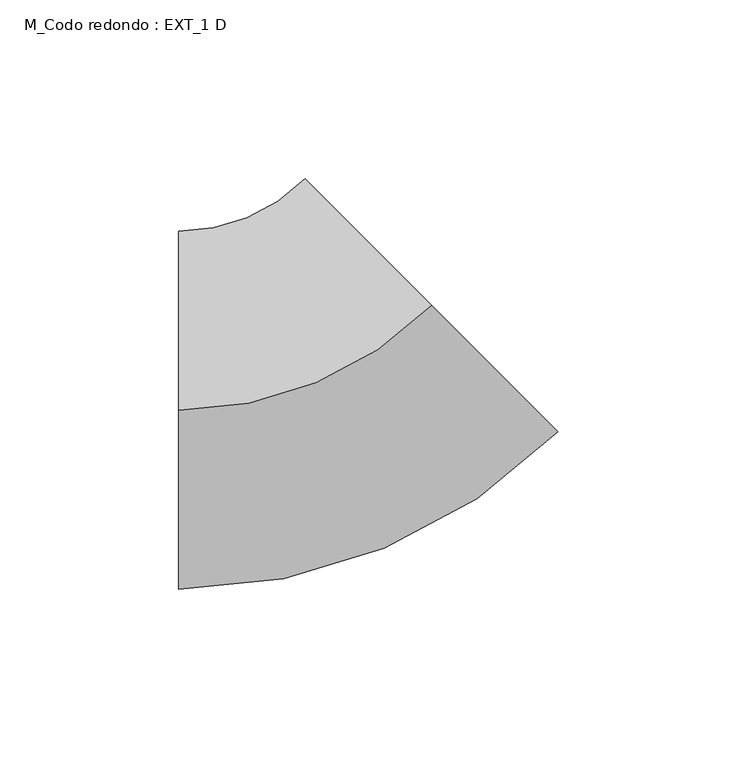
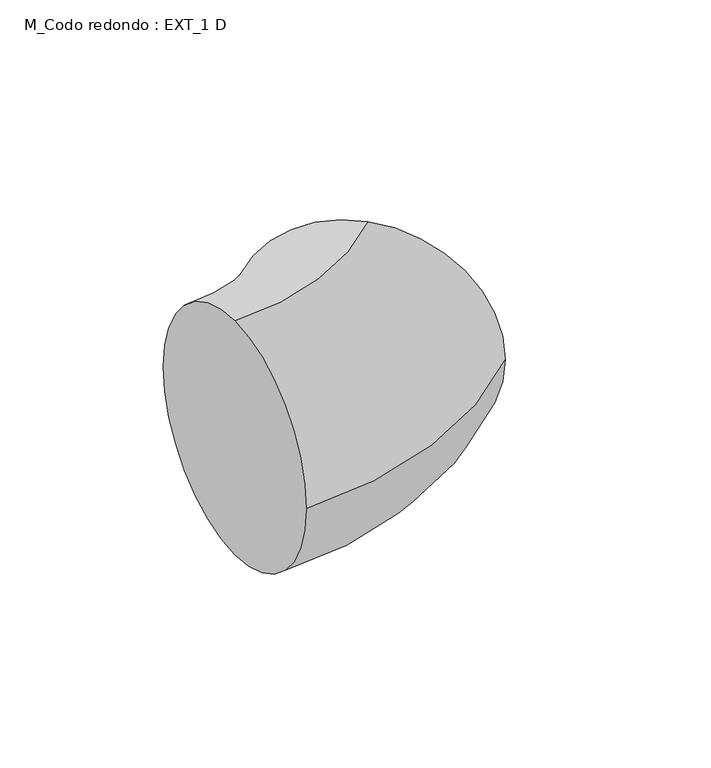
"""IFC4 building model written with IfcOpenShell, lengths in millimetres: duct fitting geometry, M_Codo redondo : EXT_1 D."""

from ifc_helpers import new_model, si_unit, point, frame, origin, place, context, project, spatial, circle_curve, ellipse_curve, trimmed, source, transform, mapped, element, save
from ifc_brep_helpers import plane_surface, revolved_surface, advanced_brep


def m_codo_redondo_ext_1_d_b5125265(model_context):
    return source(origin(), model_context, "Body", "AdvancedBrep", [
        advanced_brep(
        [(-41.4213562, 0.0, 50.0), (-41.4213562, 50.0, 0.0), (-41.4213562, 0.0, -50.0), (-41.4213562, -50.0, 0.0), (29.2893219, 29.2893219, 50.0), (64.6446609, -6.0660172, 0.0), (29.2893219, 29.2893219, -50.0), (-6.0660172, 64.6446609, 0.0)],
        [
            (0, 1, circle_curve(frame((-41.4213562, 0.0, 0.0), z_axis=(-1.0, 0.0, 0.0), x_axis=(0.0, 1.0, 0.0)), 50.0)),
            (1, 2, circle_curve(frame((-41.4213562, 0.0, 0.0), z_axis=(-1.0, 0.0, 0.0), x_axis=(0.0, 1.0, 0.0)), 50.0)),
            (2, 3, circle_curve(frame((-41.4213562, 0.0, 0.0), z_axis=(-1.0, 0.0, 0.0), x_axis=(0.0, 1.0, 0.0)), 50.0)),
            (3, 0, circle_curve(frame((-41.4213562, 0.0, 0.0), z_axis=(-1.0, 0.0, 0.0), x_axis=(0.0, 1.0, 0.0)), 50.0)),
            (4, 5, circle_curve(frame((29.2893219, 29.2893219, 0.0), z_axis=(0.7071067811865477, 0.7071067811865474, 0.0), x_axis=(-0.7071067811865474, 0.7071067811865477, 0.0)), 50.0)),
            (5, 6, circle_curve(frame((29.2893219, 29.2893219, 0.0), z_axis=(0.7071067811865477, 0.7071067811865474, 0.0), x_axis=(-0.7071067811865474, 0.7071067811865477, 0.0)), 50.0)),
            (6, 7, circle_curve(frame((29.2893219, 29.2893219, 0.0), z_axis=(0.7071067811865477, 0.7071067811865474, 0.0), x_axis=(-0.7071067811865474, 0.7071067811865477, 0.0)), 50.0)),
            (7, 4, circle_curve(frame((29.2893219, 29.2893219, 0.0), z_axis=(0.7071067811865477, 0.7071067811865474, 0.0), x_axis=(-0.7071067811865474, 0.7071067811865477, 0.0)), 50.0)),
            (7, 1, circle_curve(frame((-41.4213562, 100.0, 0.0), z_axis=(0.0, 0.0, -1.0), x_axis=(0.0, -1.0, 0.0)), 50.0)),
            (0, 4, circle_curve(frame((-41.4213562, 100.0, 50.0), z_axis=(0.0, 0.0, 1.0), x_axis=(0.0, -1.0, 0.0)), 100.0)),
            (6, 2, circle_curve(frame((-41.4213562, 100.0, -50.0), z_axis=(0.0, 0.0, -1.0), x_axis=(0.0, -1.0, 0.0)), 100.0)),
            (5, 3, circle_curve(frame((-41.4213562, 100.0, 0.0), z_axis=(0.0, 0.0, -1.0), x_axis=(0.0, -1.0, 0.0)), 150.0)),
        ],
        [
            plane_surface(frame((-41.4213562, 0.0, 0.0), z_axis=(-1.0, 0.0, 0.0), x_axis=(0.0, 0.0, 1.0))),
            plane_surface(frame((29.2893219, 29.2893219, 0.0), z_axis=(0.7071067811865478, 0.7071067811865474, 0.0), x_axis=(0.0, 0.0, 1.0))),
            revolved_surface(trimmed(ellipse_curve(frame((-41.4213562, 0.0, 0.0), z_axis=(-1.0, 0.0, 0.0), x_axis=(0.0, 1.0, 0.0)), 50.0, 50.0), [point((-41.4213562, 0.0, 50.0))], [point((-41.4213562, 50.0, 0.0))], True, "CARTESIAN"), (-41.4213562, 100.0, 0.0), (0.0, 0.0, 1.0)),
            revolved_surface(trimmed(ellipse_curve(frame((-41.4213562, 0.0, 0.0), z_axis=(-1.0, 0.0, 0.0), x_axis=(0.0, 1.0, 0.0)), 50.0, 50.0), [point((-41.4213562, 50.0, 0.0))], [point((-41.4213562, 0.0, -50.0))], True, "CARTESIAN"), (-41.4213562, 100.0, 0.0), (0.0, 0.0, 1.0)),
            revolved_surface(trimmed(ellipse_curve(frame((-41.4213562, 0.0, 0.0), z_axis=(-1.0, 0.0, 0.0), x_axis=(0.0, 1.0, 0.0)), 50.0, 50.0), [point((-41.4213562, 0.0, -50.0))], [point((-41.4213562, -50.0, 0.0))], True, "CARTESIAN"), (-41.4213562, 100.0, 0.0), (0.0, 0.0, 1.0)),
            revolved_surface(trimmed(ellipse_curve(frame((-41.4213562, 0.0, 0.0), z_axis=(-1.0, 0.0, 0.0), x_axis=(0.0, 1.0, 0.0)), 50.0, 50.0), [point((-41.4213562, -50.0, 0.0))], [point((-41.4213562, 0.0, 50.0))], True, "CARTESIAN"), (-41.4213562, 100.0, 0.0), (0.0, 0.0, 1.0)),
        ],
        [
            (0, [[1, 2, 3, 4]]),
            (1, [[5, 6, 7, 8]]),
            (2, [[9, -1, 10, -8]]),
            (3, [[11, -2, -9, -7]]),
            (4, [[12, -3, -11, -6]]),
            (5, [[-10, -4, -12, -5]]),
        ],
    ),
    ])


if __name__ == "__main__":
    model = new_model("IFC4")
    model_context = context("Model", 3, world=origin())
    ifc_project = project(units=[si_unit("LENGTHUNIT", "METRE", prefix="MILLI")], contexts=[model_context])
    site = spatial("IfcSite", under=ifc_project)
    building = spatial("IfcBuilding", under=site)
    placement = place(None, origin())
    m_codo_redondo_ext_1_d_shape = m_codo_redondo_ext_1_d_b5125265(model_context)
    element("IfcDuctFitting", 1, ObjectType="M_Codo redondo : EXT_1 D", at=placement, inside=building, context=model_context, shape_type="MappedRepresentation", body=[
        mapped(m_codo_redondo_ext_1_d_shape, transform((0.0, 0.0, 0.0), x_axis=(1.0, 0.0, 0.0), y_axis=(0.0, 1.0, 0.0), z_axis=(0.0, 0.0, 1.0))),
    ])
    save(model, "model.ifc")
